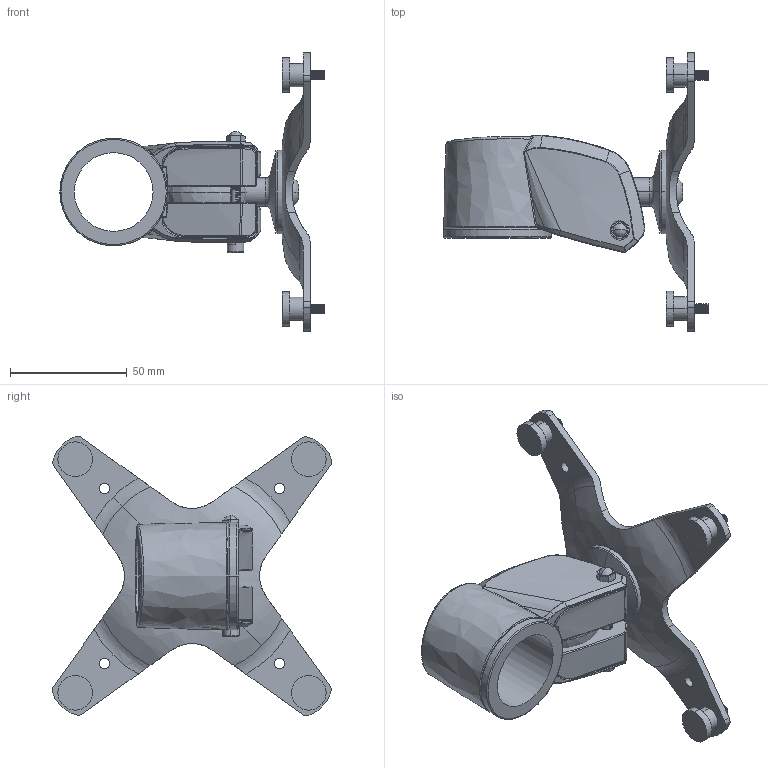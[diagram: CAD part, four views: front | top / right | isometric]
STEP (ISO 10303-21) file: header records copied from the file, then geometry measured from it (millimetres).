
FILE_DESCRIPTION((''),'2;1');
FILE_NAME('M0020_ASM','2013-04-24T',('B0540'),(''),'PRO/ENGINEER BY PARAMETRIC TECHNOLOGY CORPORATION, 2012360','PRO/ENGINEER BY PARAMETRIC TECHNOLOGY CORPORATION, 2012360','');
FILE_SCHEMA(('CONFIG_CONTROL_DESIGN'));
Length unit declared in the file: millimetre
Products named in the file (16): EM35111-17; EM35111-49-M4X8; EM35111-51; EM35111-11; AM001-_Q____-_Y_Y_____Y_ANY_ASM; EM35111-59; EM35111-52; EM35111-36; EM35111-48-M4XW8MM; EM35111-47; EM35111-41; EM35111-46-M4X40MM; EM13011-10; EM13011-48-M4X10; EM13011-18-M8X12; M0020_ASM
Assembly tree (18 placements, depth 3):
  M0020_ASM
    EM35111-17
    EM35111-49-M4X8
    EM35111-51
    AM001-_Q____-_Y_Y_____Y_ANY_ASM
      EM35111-11
    EM35111-59
    EM35111-52
    EM35111-36
    EM35111-48-M4XW8MM
    EM35111-47
    EM35111-41
    EM35111-46-M4X40MM
    EM13011-10
    EM13011-48-M4X10  x4
    EM13011-18-M8X12
Bounding box: 113.07 x 119.61 x 119.61 mm (x, y, z)
Volume: 119645.2 mm3; surface area: 93425.6 mm2
Topology: 18 solids, 35 shells, 2914 faces, 8026 edges, 5238 vertices
Faces by surface type: plane 1478, cylinder 547, bspline 518, torus 144, sphere 138, cone 81, extrusion 7, revolution 1
Entity records: 127688 total; most frequent: CARTESIAN_POINT 60664, ORIENTED_EDGE 15227, DIRECTION 11878, EDGE_CURVE 7697, VERTEX_POINT 5052, VECTOR 4053, LINE 4046, AXIS2_PLACEMENT_3D 3912
